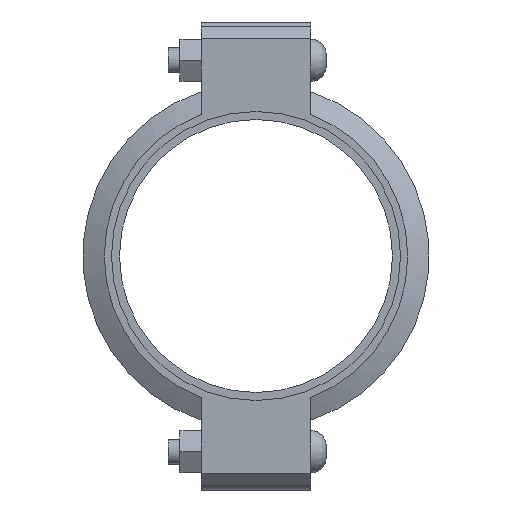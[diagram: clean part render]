
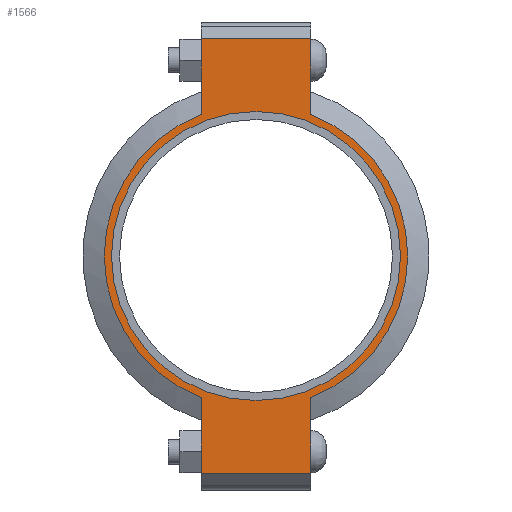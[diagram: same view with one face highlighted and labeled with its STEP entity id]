
A CAD part, left-side view. The second image highlights one B-rep face of the part: STEP entity #1566.
In plain terms, the highlighted planar face has unit normal (-1, 0, 0) as drawn and (0, 0, 1) by its records, which use the part's own axes.
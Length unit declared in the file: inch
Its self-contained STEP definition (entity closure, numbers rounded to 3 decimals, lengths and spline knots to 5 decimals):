
#190=LINE('',#2742,#283);
#198=LINE('',#2778,#291);
#205=LINE('',#2799,#298);
#214=LINE('',#2831,#307);
#215=LINE('',#2835,#308);
#216=LINE('',#2837,#309);
#283=VECTOR('',#2234,0.3937);
#291=VECTOR('',#2250,0.3937);
#298=VECTOR('',#2269,0.3937);
#307=VECTOR('',#2294,0.3937);
#308=VECTOR('',#2299,0.3937);
#309=VECTOR('',#2300,0.3937);
#365=FACE_BOUND('',#543,.T.);
#437=FACE_OUTER_BOUND('',#542,.T.);
#542=EDGE_LOOP('',(#1307,#1308,#1309,#1310,#1311,#1312,#1313,#1314));
#543=EDGE_LOOP('',(#1315));
#615=CIRCLE('',#1794,4.3125);
#641=CIRCLE('',#1853,4.53);
#642=CIRCLE('',#1854,4.53);
#707=VERTEX_POINT('',#2558);
#750=VERTEX_POINT('',#2739);
#751=VERTEX_POINT('',#2741);
#762=VERTEX_POINT('',#2773);
#763=VERTEX_POINT('',#2777);
#770=VERTEX_POINT('',#2796);
#771=VERTEX_POINT('',#2798);
#781=VERTEX_POINT('',#2834);
#782=VERTEX_POINT('',#2836);
#863=EDGE_CURVE('',#707,#707,#615,.T.);
#924=EDGE_CURVE('',#751,#750,#190,.T.);
#938=EDGE_CURVE('',#763,#762,#198,.T.);
#948=EDGE_CURVE('',#771,#770,#205,.T.);
#963=EDGE_CURVE('',#763,#750,#214,.T.);
#964=EDGE_CURVE('',#762,#771,#641,.T.);
#965=EDGE_CURVE('',#781,#770,#215,.T.);
#966=EDGE_CURVE('',#781,#782,#216,.T.);
#967=EDGE_CURVE('',#782,#751,#642,.T.);
#1307=ORIENTED_EDGE('',*,*,#963,.F.);
#1308=ORIENTED_EDGE('',*,*,#938,.T.);
#1309=ORIENTED_EDGE('',*,*,#964,.T.);
#1310=ORIENTED_EDGE('',*,*,#948,.T.);
#1311=ORIENTED_EDGE('',*,*,#965,.F.);
#1312=ORIENTED_EDGE('',*,*,#966,.T.);
#1313=ORIENTED_EDGE('',*,*,#967,.T.);
#1314=ORIENTED_EDGE('',*,*,#924,.T.);
#1315=ORIENTED_EDGE('',*,*,#863,.T.);
#1408=PLANE('',#1852);
#1566=ADVANCED_FACE('',(#437,#365),#1408,.T.);
#1794=AXIS2_PLACEMENT_3D('',#2560,#2110,#2111);
#1852=AXIS2_PLACEMENT_3D('',#2832,#2295,#2296);
#1853=AXIS2_PLACEMENT_3D('',#2833,#2297,#2298);
#1854=AXIS2_PLACEMENT_3D('',#2838,#2301,#2302);
#2110=DIRECTION('center_axis',(0.,0.,-1.));
#2111=DIRECTION('ref_axis',(1.,0.,0.));
#2234=DIRECTION('',(1.,0.,0.));
#2250=DIRECTION('',(-1.,0.,0.));
#2269=DIRECTION('',(-1.,0.,0.));
#2294=DIRECTION('',(0.,-1.,0.));
#2295=DIRECTION('center_axis',(0.,0.,1.));
#2296=DIRECTION('ref_axis',(-1.,0.,0.));
#2297=DIRECTION('center_axis',(0.,0.,1.));
#2298=DIRECTION('ref_axis',(1.,0.,0.));
#2299=DIRECTION('',(0.,1.,0.));
#2300=DIRECTION('',(1.,0.,0.));
#2301=DIRECTION('center_axis',(0.,0.,1.));
#2302=DIRECTION('ref_axis',(1.,0.,0.));
#2558=CARTESIAN_POINT('',(-4.3125,0.,1.16));
#2560=CARTESIAN_POINT('Origin',(0.,0.,1.16));
#2739=CARTESIAN_POINT('',(6.485,-1.63,1.16));
#2741=CARTESIAN_POINT('',(4.22658,-1.63,1.16));
#2742=CARTESIAN_POINT('',(6.985,-1.63,1.16));
#2773=CARTESIAN_POINT('',(4.22658,1.63,1.16));
#2777=CARTESIAN_POINT('',(6.485,1.63,1.16));
#2778=CARTESIAN_POINT('',(-6.985,1.63,1.16));
#2796=CARTESIAN_POINT('',(-6.485,1.63,1.16));
#2798=CARTESIAN_POINT('',(-4.22658,1.63,1.16));
#2799=CARTESIAN_POINT('',(-6.985,1.63,1.16));
#2831=CARTESIAN_POINT('',(6.485,-0.815,1.16));
#2832=CARTESIAN_POINT('Origin',(0.,0.,
1.16));
#2833=CARTESIAN_POINT('Origin',(0.,0.,1.16));
#2834=CARTESIAN_POINT('',(-6.485,-1.63,1.16));
#2835=CARTESIAN_POINT('',(-6.485,0.815,1.16));
#2836=CARTESIAN_POINT('',(-4.22658,-1.63,1.16));
#2837=CARTESIAN_POINT('',(6.985,-1.63,1.16));
#2838=CARTESIAN_POINT('Origin',(0.,0.,1.16));
